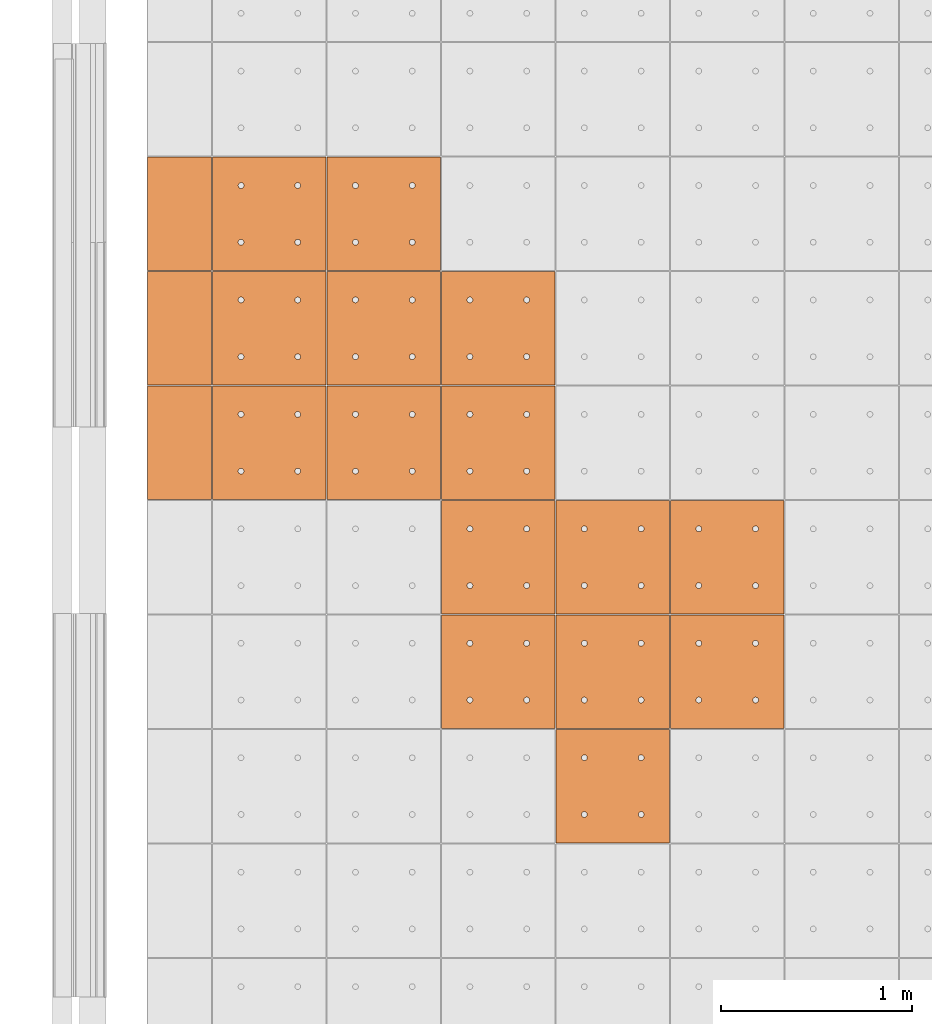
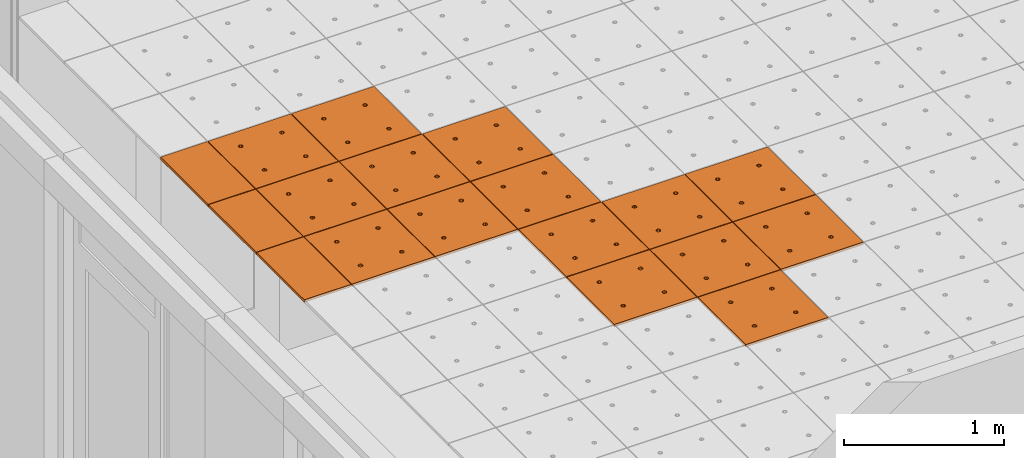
# One storey, part 236 of 338: 18 proxies, 1 element without a shape of its own.
"""IFC2X3 building model written with IfcOpenShell, lengths in millimetres."""

from ifc_helpers import new_model, entity, si_unit, converted_unit, derived_unit, money_unit, direction, frame, origin_with_axes, place, context, subcontext, project, spatial, faceted_brep, source, transform, mapped, material, type_object, type_shapes, element, aggregate, save


model = new_model("IFC2X3")

# Units and contexts
model_context = context("Model", 3, precision=0.01, world=origin_with_axes(), true_north=direction((0.0, 1.0)))
plan_context = context("Plan", 3, precision=0.01, world=origin_with_axes(), true_north=direction((0.0, 1.0)))
body_context = subcontext(model_context, "Body", "Model", "MODEL_VIEW")
ifc_project = project(units=[si_unit("LENGTHUNIT", "METRE", prefix="MILLI"), si_unit("AREAUNIT", "SQUARE_METRE"), si_unit("VOLUMEUNIT", "CUBIC_METRE"), converted_unit("PLANEANGLEUNIT", "DEGREE", entity("IfcPlaneAngleMeasure", 0.0174532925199), si_unit("PLANEANGLEUNIT", "RADIAN"), dimensions=[0, 0, 0, 0, 0, 0, 0]), money_unit("EUR"), converted_unit("TIMEUNIT", "Year", entity("IfcTimeMeasure", 31556926.0), si_unit("TIMEUNIT", "SECOND"), dimensions=[0, 0, 1, 0, 0, 0, 0]), si_unit("MASSUNIT", "GRAM", prefix="KILO"), si_unit("THERMODYNAMICTEMPERATUREUNIT", "DEGREE_CELSIUS"), si_unit("LUMINOUSINTENSITYUNIT", "LUMEN"), si_unit("ENERGYUNIT", "JOULE", prefix="MEGA"), derived_unit("THERMALCONDUCTANCEUNIT", [(si_unit("POWERUNIT", "WATT"), 1), (si_unit("LENGTHUNIT", "METRE"), -1), (si_unit("THERMODYNAMICTEMPERATUREUNIT", "KELVIN"), -1)]), derived_unit("SPECIFICHEATCAPACITYUNIT", [(si_unit("ENERGYUNIT", "JOULE"), 1), (si_unit("MASSUNIT", "GRAM", prefix="KILO"), -1), (si_unit("THERMODYNAMICTEMPERATUREUNIT", "KELVIN"), -1)]), derived_unit("MASSDENSITYUNIT", [(si_unit("MASSUNIT", "GRAM", prefix="KILO"), 1), (si_unit("VOLUMEUNIT", "CUBIC_METRE"), -1)])], contexts=[model_context, plan_context])

# Site, building, storey
site_placement = place(None, origin_with_axes())
site = spatial("IfcSite", under=ifc_project, at=site_placement, Name="Fortuinstraat Woensdrecht", CompositionType="ELEMENT")
building_placement = place(site_placement, origin_with_axes())
building = spatial("IfcBuilding", under=site, at=building_placement, Name="IKC Fortuna", CompositionType="ELEMENT")
storey_placement = place(building_placement, origin_with_axes())
storey = spatial("IfcBuildingStorey", under=building, at=storey_placement, Name="00 begane grond", CompositionType="ELEMENT", Elevation=0.0)

# Covering, proxies
covering_type = type_object("IfcCoveringType", Name="Curtain Wall Type", PredefinedType="CEILING")
covering_placement = place(storey_placement, frame((17451.9845996, 24118.5314449, 3210.0), z_axis=(0.0, 0.0, 1.0), x_axis=(1.0, 0.0, 0.0)))
covering = element("IfcCovering", 1, at=covering_placement, inside=storey, type_object=covering_type, Name="45_Plafondafwerking_P01", PredefinedType="CEILING")
ifc_material = material(Name="Gipsplaat")
building_element_proxy_type_1 = type_object("IfcBuildingElementProxyType", Name="Main Panel 600 x 600 x 20", PredefinedType="NOTDEFINED")
shared_shape_1 = source(origin_with_axes(), body_context, "Body", "Brep", [
    faceted_brep([(2.49999999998, 2.49999999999, -10.0), (300.0, 2.49999999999, -10.0), (300.0, 2.49999999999, 10.0), (2.49999999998, 2.49999999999, 10.0), (2.49999999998, 300.0, -10.0), (2.49999999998, 597.5, -10.0), (300.0, 597.5, -10.0), (597.5, 597.5, -10.0), (597.5, 300.0, -10.0), (597.5, 2.49999999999, -10.0), (166.25, 450.06232995, -10.0), (165.79423259, 452.64711538, -10.0), (164.896546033, 455.11348892, -10.0), (163.58421608, 457.38651108, -10.0), (161.897117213, 459.39711721, -10.0), (159.886511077, 461.08421608, -10.0), (157.613488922, 462.39654603, -10.0), (155.147115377, 463.29423259, -10.0), (152.562329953, 463.75, -10.0), (149.937670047, 463.75, -10.0), (147.352884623, 463.29423259, -10.0), (144.886511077, 462.39654603, -10.0), (142.613488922, 461.08421608, -10.0), (140.602882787, 459.39711721, -10.0), (138.91578392, 457.38651108, -10.0), (137.603453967, 455.11348892, -10.0), (136.705767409, 452.64711538, -10.0), (136.25, 450.06232995, -10.0), (136.25, 448.75, -10.0), (136.25, 447.43767005, -10.0), (136.705767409, 444.85288462, -10.0), (137.603453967, 442.38651108, -10.0), (138.91578392, 440.11348892, -10.0), (140.602882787, 438.10288279, -10.0), (142.613488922, 436.41578392, -10.0), (144.886511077, 435.10345397, -10.0), (147.352884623, 434.20576741, -10.0), (149.937670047, 433.75, -10.0), (152.562329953, 433.75, -10.0), (155.147115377, 434.20576741, -10.0), (157.613488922, 435.10345397, -10.0), (159.886511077, 436.41578392, -10.0), (161.897117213, 438.10288279, -10.0), (163.58421608, 440.11348892, -10.0), (164.896546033, 442.38651108, -10.0), (165.79423259, 444.85288462, -10.0), (166.25, 447.43767005, -10.0), (463.75, 450.06232995, -10.0), (463.29423259, 452.64711538, -10.0), (462.396546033, 455.11348892, -10.0), (461.08421608, 457.38651108, -10.0), (459.397117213, 459.39711721, -10.0), (457.386511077, 461.08421608, -10.0), (455.113488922, 462.39654603, -10.0), (452.647115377, 463.29423259, -10.0), (450.062329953, 463.75, -10.0), (447.437670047, 463.75, -10.0), (444.852884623, 463.29423259, -10.0), (442.386511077, 462.39654603, -10.0), (440.113488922, 461.08421608, -10.0), (438.102882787, 459.39711721, -10.0), (436.41578392, 457.38651108, -10.0), (435.103453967, 455.11348892, -10.0), (434.205767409, 452.64711538, -10.0), (433.75, 450.06232995, -10.0), (433.75, 448.75, -10.0), (433.75, 447.43767005, -10.0), (434.205767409, 444.85288462, -10.0), (435.103453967, 442.38651108, -10.0), (436.41578392, 440.11348892, -10.0), (438.102882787, 438.10288279, -10.0), (440.113488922, 436.41578392, -10.0), (442.386511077, 435.10345397, -10.0), (444.852884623, 434.20576741, -10.0), (447.437670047, 433.75, -10.0), (450.062329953, 433.75, -10.0), (452.647115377, 434.20576741, -10.0), (455.113488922, 435.10345397, -10.0), (457.386511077, 436.41578392, -10.0), (459.397117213, 438.10288279, -10.0), (461.08421608, 440.11348892, -10.0), (462.396546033, 442.38651108, -10.0), (463.29423259, 444.85288462, -10.0), (463.75, 447.43767005, -10.0), (463.75, 152.56232995, -10.0), (463.29423259, 155.14711538, -10.0), (462.396546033, 157.61348892, -10.0), (461.08421608, 159.88651108, -10.0), (459.397117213, 161.89711721, -10.0), (457.386511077, 163.58421608, -10.0), (455.113488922, 164.89654603, -10.0), (452.647115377, 165.79423259, -10.0), (450.062329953, 166.25, -10.0), (447.437670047, 166.25, -10.0), (444.852884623, 165.79423259, -10.0), (442.386511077, 164.89654603, -10.0), (440.113488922, 163.58421608, -10.0), (438.102882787, 161.89711721, -10.0), (436.41578392, 159.88651108, -10.0), (435.103453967, 157.61348892, -10.0), (434.205767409, 155.14711538, -10.0), (433.75, 152.56232995, -10.0), (433.75, 151.25, -10.0), (433.75, 149.93767005, -10.0), (434.205767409, 147.35288462, -10.0), (435.103453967, 144.88651108, -10.0), (436.41578392, 142.61348892, -10.0), (438.102882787, 140.60288279, -10.0), (440.113488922, 138.91578392, -10.0), (442.386511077, 137.60345397, -10.0), (444.852884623, 136.70576741, -10.0), (447.437670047, 136.25, -10.0), (450.062329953, 136.25, -10.0), (452.647115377, 136.70576741, -10.0), (455.113488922, 137.60345397, -10.0), (457.386511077, 138.91578392, -10.0), (459.397117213, 140.60288279, -10.0), (461.08421608, 142.61348892, -10.0), (462.396546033, 144.88651108, -10.0), (463.29423259, 147.35288462, -10.0), (463.75, 149.93767005, -10.0), (166.25, 152.56232995, -10.0), (165.79423259, 155.14711538, -10.0), (164.896546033, 157.61348892, -10.0), (163.58421608, 159.88651108, -10.0), (161.897117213, 161.89711721, -10.0), (159.886511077, 163.58421608, -10.0), (157.613488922, 164.89654603, -10.0), (155.147115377, 165.79423259, -10.0), (152.562329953, 166.25, -10.0), (149.937670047, 166.25, -10.0), (147.352884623, 165.79423259, -10.0), (144.886511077, 164.89654603, -10.0), (142.613488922, 163.58421608, -10.0), (140.602882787, 161.89711721, -10.0), (138.91578392, 159.88651108, -10.0), (137.603453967, 157.61348892, -10.0), (136.705767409, 155.14711538, -10.0), (136.25, 152.56232995, -10.0), (136.25, 151.25, -10.0), (136.25, 149.93767005, -10.0), (136.705767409, 147.35288462, -10.0), (137.603453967, 144.88651108, -10.0), (138.91578392, 142.61348892, -10.0), (140.602882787, 140.60288279, -10.0), (142.613488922, 138.91578392, -10.0), (144.886511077, 137.60345397, -10.0), (147.352884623, 136.70576741, -10.0), (149.937670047, 136.25, -10.0), (152.562329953, 136.25, -10.0), (155.147115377, 136.70576741, -10.0), (157.613488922, 137.60345397, -10.0), (159.886511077, 138.91578392, -10.0), (161.897117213, 140.60288279, -10.0), (163.58421608, 142.61348892, -10.0), (164.896546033, 144.88651108, -10.0), (165.79423259, 147.35288462, -10.0), (166.25, 149.93767005, -10.0), (597.5, 2.49999999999, 10.0), (597.5, 300.0, 10.0), (597.5, 597.5, 10.0), (300.0, 597.5, 10.0), (2.49999999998, 597.5, 10.0), (2.49999999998, 300.0, 10.0), (166.25, 450.06232995, 10.0), (166.25, 447.43767005, 10.0), (165.79423259, 444.85288462, 10.0), (164.896546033, 442.38651108, 10.0), (163.58421608, 440.11348892, 10.0), (161.897117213, 438.10288279, 10.0), (159.886511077, 436.41578392, 10.0), (157.613488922, 435.10345397, 10.0), (155.147115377, 434.20576741, 10.0), (152.562329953, 433.75, 10.0), (149.937670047, 433.75, 10.0), (147.352884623, 434.20576741, 10.0), (144.886511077, 435.10345397, 10.0), (142.613488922, 436.41578392, 10.0), (140.602882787, 438.10288279, 10.0), (138.91578392, 440.11348892, 10.0), (137.603453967, 442.38651108, 10.0), (136.705767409, 444.85288462, 10.0), (136.25, 447.43767005, 10.0), (136.25, 448.75, 10.0), (136.25, 450.06232995, 10.0), (136.705767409, 452.64711538, 10.0), (137.603453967, 455.11348892, 10.0), (138.91578392, 457.38651108, 10.0), (140.602882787, 459.39711721, 10.0), (142.613488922, 461.08421608, 10.0), (144.886511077, 462.39654603, 10.0), (147.352884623, 463.29423259, 10.0), (149.937670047, 463.75, 10.0), (152.562329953, 463.75, 10.0), (155.147115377, 463.29423259, 10.0), (157.613488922, 462.39654603, 10.0), (159.886511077, 461.08421608, 10.0), (161.897117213, 459.39711721, 10.0), (163.58421608, 457.38651108, 10.0), (164.896546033, 455.11348892, 10.0), (165.79423259, 452.64711538, 10.0), (463.75, 450.06232995, 10.0), (463.75, 447.43767005, 10.0), (463.29423259, 444.85288462, 10.0), (462.396546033, 442.38651108, 10.0), (461.08421608, 440.11348892, 10.0), (459.397117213, 438.10288279, 10.0), (457.386511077, 436.41578392, 10.0), (455.113488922, 435.10345397, 10.0), (452.647115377, 434.20576741, 10.0), (450.062329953, 433.75, 10.0), (447.437670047, 433.75, 10.0), (444.852884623, 434.20576741, 10.0), (442.386511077, 435.10345397, 10.0), (440.113488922, 436.41578392, 10.0), (438.102882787, 438.10288279, 10.0), (436.41578392, 440.11348892, 10.0), (435.103453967, 442.38651108, 10.0), (434.205767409, 444.85288462, 10.0), (433.75, 447.43767005, 10.0), (433.75, 448.75, 10.0), (433.75, 450.06232995, 10.0), (434.205767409, 452.64711538, 10.0), (435.103453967, 455.11348892, 10.0), (436.41578392, 457.38651108, 10.0), (438.102882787, 459.39711721, 10.0), (440.113488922, 461.08421608, 10.0), (442.386511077, 462.39654603, 10.0), (444.852884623, 463.29423259, 10.0), (447.437670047, 463.75, 10.0), (450.062329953, 463.75, 10.0), (452.647115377, 463.29423259, 10.0), (455.113488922, 462.39654603, 10.0), (457.386511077, 461.08421608, 10.0), (459.397117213, 459.39711721, 10.0), (461.08421608, 457.38651108, 10.0), (462.396546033, 455.11348892, 10.0), (463.29423259, 452.64711538, 10.0), (463.75, 152.56232995, 10.0), (463.75, 149.93767005, 10.0), (463.29423259, 147.35288462, 10.0), (462.396546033, 144.88651108, 10.0), (461.08421608, 142.61348892, 10.0), (459.397117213, 140.60288279, 10.0), (457.386511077, 138.91578392, 10.0), (455.113488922, 137.60345397, 10.0), (452.647115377, 136.70576741, 10.0), (450.062329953, 136.25, 10.0), (447.437670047, 136.25, 10.0), (444.852884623, 136.70576741, 10.0), (442.386511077, 137.60345397, 10.0), (440.113488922, 138.91578392, 10.0), (438.102882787, 140.60288279, 10.0), (436.41578392, 142.61348892, 10.0), (435.103453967, 144.88651108, 10.0), (434.205767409, 147.35288462, 10.0), (433.75, 149.93767005, 10.0), (433.75, 151.25, 10.0), (433.75, 152.56232995, 10.0), (434.205767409, 155.14711538, 10.0), (435.103453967, 157.61348892, 10.0), (436.41578392, 159.88651108, 10.0), (438.102882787, 161.89711721, 10.0), (440.113488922, 163.58421608, 10.0), (442.386511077, 164.89654603, 10.0), (444.852884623, 165.79423259, 10.0), (447.437670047, 166.25, 10.0), (450.062329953, 166.25, 10.0), (452.647115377, 165.79423259, 10.0), (455.113488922, 164.89654603, 10.0), (457.386511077, 163.58421608, 10.0), (459.397117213, 161.89711721, 10.0), (461.08421608, 159.88651108, 10.0), (462.396546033, 157.61348892, 10.0), (463.29423259, 155.14711538, 10.0), (166.25, 152.56232995, 10.0), (166.25, 149.93767005, 10.0), (165.79423259, 147.35288462, 10.0), (164.896546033, 144.88651108, 10.0), (163.58421608, 142.61348892, 10.0), (161.897117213, 140.60288279, 10.0), (159.886511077, 138.91578392, 10.0), (157.613488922, 137.60345397, 10.0), (155.147115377, 136.70576741, 10.0), (152.562329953, 136.25, 10.0), (149.937670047, 136.25, 10.0), (147.352884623, 136.70576741, 10.0), (144.886511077, 137.60345397, 10.0), (142.613488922, 138.91578392, 10.0), (140.602882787, 140.60288279, 10.0), (138.91578392, 142.61348892, 10.0), (137.603453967, 144.88651108, 10.0), (136.705767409, 147.35288462, 10.0), (136.25, 149.93767005, 10.0), (136.25, 151.25, 10.0), (136.25, 152.56232995, 10.0), (136.705767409, 155.14711538, 10.0), (137.603453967, 157.61348892, 10.0), (138.91578392, 159.88651108, 10.0), (140.602882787, 161.89711721, 10.0), (142.613488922, 163.58421608, 10.0), (144.886511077, 164.89654603, 10.0), (147.352884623, 165.79423259, 10.0), (149.937670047, 166.25, 10.0), (152.562329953, 166.25, 10.0), (155.147115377, 165.79423259, 10.0), (157.613488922, 164.89654603, 10.0), (159.886511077, 163.58421608, 10.0), (161.897117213, 161.89711721, 10.0), (163.58421608, 159.88651108, 10.0), (164.896546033, 157.61348892, 10.0), (165.79423259, 155.14711538, 10.0)], [[[0, 1, 2, 3]], [[0, 4, 5, 6, 7, 8, 9, 1], [10, 11, 12, 13, 14, 15, 16, 17, 18, 19, 20, 21, 22, 23, 24, 25, 26, 27, 28, 29, 30, 31, 32, 33, 34, 35, 36, 37, 38, 39, 40, 41, 42, 43, 44, 45, 46], [47, 48, 49, 50, 51, 52, 53, 54, 55, 56, 57, 58, 59, 60, 61, 62, 63, 64, 65, 66, 67, 68, 69, 70, 71, 72, 73, 74, 75, 76, 77, 78, 79, 80, 81, 82, 83], [84, 85, 86, 87, 88, 89, 90, 91, 92, 93, 94, 95, 96, 97, 98, 99, 100, 101, 102, 103, 104, 105, 106, 107, 108, 109, 110, 111, 112, 113, 114, 115, 116, 117, 118, 119, 120], [121, 122, 123, 124, 125, 126, 127, 128, 129, 130, 131, 132, 133, 134, 135, 136, 137, 138, 139, 140, 141, 142, 143, 144, 145, 146, 147, 148, 149, 150, 151, 152, 153, 154, 155, 156, 157]], [[1, 9, 158, 2]], [[3, 2, 158, 159, 160, 161, 162, 163], [164, 165, 166, 167, 168, 169, 170, 171, 172, 173, 174, 175, 176, 177, 178, 179, 180, 181, 182, 183, 184, 185, 186, 187, 188, 189, 190, 191, 192, 193, 194, 195, 196, 197, 198, 199, 200], [201, 202, 203, 204, 205, 206, 207, 208, 209, 210, 211, 212, 213, 214, 215, 216, 217, 218, 219, 220, 221, 222, 223, 224, 225, 226, 227, 228, 229, 230, 231, 232, 233, 234, 235, 236, 237], [238, 239, 240, 241, 242, 243, 244, 245, 246, 247, 248, 249, 250, 251, 252, 253, 254, 255, 256, 257, 258, 259, 260, 261, 262, 263, 264, 265, 266, 267, 268, 269, 270, 271, 272, 273, 274], [275, 276, 277, 278, 279, 280, 281, 282, 283, 284, 285, 286, 287, 288, 289, 290, 291, 292, 293, 294, 295, 296, 297, 298, 299, 300, 301, 302, 303, 304, 305, 306, 307, 308, 309, 310, 311]], [[4, 0, 3, 163]], [[5, 4, 163, 162]], [[6, 5, 162, 161]], [[7, 6, 161, 160]], [[8, 7, 160, 159]], [[9, 8, 159, 158]], [[11, 10, 164, 200]], [[12, 11, 200, 199]], [[13, 12, 199, 198]], [[14, 13, 198, 197]], [[15, 14, 197, 196]], [[16, 15, 196, 195]], [[17, 16, 195, 194]], [[18, 17, 194, 193]], [[19, 18, 193, 192]], [[20, 19, 192, 191]], [[21, 20, 191, 190]], [[22, 21, 190, 189]], [[23, 22, 189, 188]], [[24, 23, 188, 187]], [[25, 24, 187, 186]], [[26, 25, 186, 185]], [[27, 26, 185, 184]], [[28, 27, 184, 183]], [[29, 28, 183, 182]], [[30, 29, 182, 181]], [[31, 30, 181, 180]], [[32, 31, 180, 179]], [[33, 32, 179, 178]], [[34, 33, 178, 177]], [[35, 34, 177, 176]], [[36, 35, 176, 175]], [[37, 36, 175, 174]], [[38, 37, 174, 173]], [[39, 38, 173, 172]], [[40, 39, 172, 171]], [[41, 40, 171, 170]], [[42, 41, 170, 169]], [[43, 42, 169, 168]], [[44, 43, 168, 167]], [[45, 44, 167, 166]], [[46, 45, 166, 165]], [[10, 46, 165, 164]], [[48, 47, 201, 237]], [[49, 48, 237, 236]], [[50, 49, 236, 235]], [[51, 50, 235, 234]], [[52, 51, 234, 233]], [[53, 52, 233, 232]], [[54, 53, 232, 231]], [[55, 54, 231, 230]], [[56, 55, 230, 229]], [[57, 56, 229, 228]], [[58, 57, 228, 227]], [[59, 58, 227, 226]], [[60, 59, 226, 225]], [[61, 60, 225, 224]], [[62, 61, 224, 223]], [[63, 62, 223, 222]], [[64, 63, 222, 221]], [[65, 64, 221, 220]], [[66, 65, 220, 219]], [[67, 66, 219, 218]], [[68, 67, 218, 217]], [[69, 68, 217, 216]], [[70, 69, 216, 215]], [[71, 70, 215, 214]], [[72, 71, 214, 213]], [[73, 72, 213, 212]], [[74, 73, 212, 211]], [[75, 74, 211, 210]], [[76, 75, 210, 209]], [[77, 76, 209, 208]], [[78, 77, 208, 207]], [[79, 78, 207, 206]], [[80, 79, 206, 205]], [[81, 80, 205, 204]], [[82, 81, 204, 203]], [[83, 82, 203, 202]], [[47, 83, 202, 201]], [[85, 84, 238, 274]], [[86, 85, 274, 273]], [[87, 86, 273, 272]], [[88, 87, 272, 271]], [[89, 88, 271, 270]], [[90, 89, 270, 269]], [[91, 90, 269, 268]], [[92, 91, 268, 267]], [[93, 92, 267, 266]], [[94, 93, 266, 265]], [[95, 94, 265, 264]], [[96, 95, 264, 263]], [[97, 96, 263, 262]], [[98, 97, 262, 261]], [[99, 98, 261, 260]], [[100, 99, 260, 259]], [[101, 100, 259, 258]], [[102, 101, 258, 257]], [[103, 102, 257, 256]], [[104, 103, 256, 255]], [[105, 104, 255, 254]], [[106, 105, 254, 253]], [[107, 106, 253, 252]], [[108, 107, 252, 251]], [[109, 108, 251, 250]], [[110, 109, 250, 249]], [[111, 110, 249, 248]], [[112, 111, 248, 247]], [[113, 112, 247, 246]], [[114, 113, 246, 245]], [[115, 114, 245, 244]], [[116, 115, 244, 243]], [[117, 116, 243, 242]], [[118, 117, 242, 241]], [[119, 118, 241, 240]], [[120, 119, 240, 239]], [[84, 120, 239, 238]], [[122, 121, 275, 311]], [[123, 122, 311, 310]], [[124, 123, 310, 309]], [[125, 124, 309, 308]], [[126, 125, 308, 307]], [[127, 126, 307, 306]], [[128, 127, 306, 305]], [[129, 128, 305, 304]], [[130, 129, 304, 303]], [[131, 130, 303, 302]], [[132, 131, 302, 301]], [[133, 132, 301, 300]], [[134, 133, 300, 299]], [[135, 134, 299, 298]], [[136, 135, 298, 297]], [[137, 136, 297, 296]], [[138, 137, 296, 295]], [[139, 138, 295, 294]], [[140, 139, 294, 293]], [[141, 140, 293, 292]], [[142, 141, 292, 291]], [[143, 142, 291, 290]], [[144, 143, 290, 289]], [[145, 144, 289, 288]], [[146, 145, 288, 287]], [[147, 146, 287, 286]], [[148, 147, 286, 285]], [[149, 148, 285, 284]], [[150, 149, 284, 283]], [[151, 150, 283, 282]], [[152, 151, 282, 281]], [[153, 152, 281, 280]], [[154, 153, 280, 279]], [[155, 154, 279, 278]], [[156, 155, 278, 277]], [[157, 156, 277, 276]], [[121, 157, 276, 275]]]),
])
type_shapes(building_element_proxy_type_1, [shared_shape_1])
proxy_1_placement = place(covering_placement, frame((-1200.0, -6000.0, 1.37223565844e-10), z_axis=(0.0, 0.0, 1.0), x_axis=(1.0, 0.0, 0.0)))
proxy_1 = element("IfcBuildingElementProxy", 2, at=proxy_1_placement, type_object=building_element_proxy_type_1, material=ifc_material, Name="__600x644 Rockfon Krios", context=body_context, shape_type="MappedRepresentation", body=[
    mapped(shared_shape_1, transform((300.0, 300.0, 0.0), x_axis=(-1.0, 0.0, 0.0), y_axis=(0.0, -1.0, 0.0), z_axis=(0.0, 0.0, 1.0))),
])
proxy_2_placement = place(covering_placement, frame((-600.0, -4800.0, 1.1768364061e-10), z_axis=(0.0, 0.0, 1.0), x_axis=(1.0, 0.0, 0.0)))
proxy_2 = element("IfcBuildingElementProxy", 3, at=proxy_2_placement, type_object=building_element_proxy_type_1, material=ifc_material, Name="__600x654 Rockfon Krios", context=body_context, shape_type="MappedRepresentation", body=[
    mapped(shared_shape_1, transform((300.0, 300.0, 0.0), x_axis=(-1.0, 0.0, 0.0), y_axis=(0.0, -1.0, 0.0), z_axis=(0.0, 0.0, 1.0))),
])
proxy_3_placement = place(covering_placement, frame((-600.0, -5400.0, 1.1768364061e-10), z_axis=(0.0, 0.0, 1.0), x_axis=(1.0, 0.0, 0.0)))
proxy_3 = element("IfcBuildingElementProxy", 4, at=proxy_3_placement, type_object=building_element_proxy_type_1, material=ifc_material, Name="__600x655 Rockfon Krios", context=body_context, shape_type="MappedRepresentation", body=[
    mapped(shared_shape_1, transform((300.0, 300.0, 0.0), x_axis=(-1.0, 0.0, 0.0), y_axis=(0.0, -1.0, 0.0), z_axis=(0.0, 0.0, 1.0))),
])
proxy_4_placement = place(covering_placement, frame((-3000.0, -3000.0, 1.96287430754e-10), z_axis=(0.0, 0.0, 1.0), x_axis=(1.0, 0.0, 0.0)))
proxy_4 = element("IfcBuildingElementProxy", 5, at=proxy_4_placement, type_object=building_element_proxy_type_1, material=ifc_material, Name="__600x729 Rockfon Krios", context=body_context, shape_type="MappedRepresentation", body=[
    mapped(shared_shape_1, transform((300.0, 300.0, 0.0), x_axis=(-1.0, 0.0, 0.0), y_axis=(0.0, -1.0, 0.0), z_axis=(0.0, 0.0, 1.0))),
])
proxy_5_placement = place(covering_placement, frame((-3000.0, -3600.0, 1.96287430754e-10), z_axis=(0.0, 0.0, 1.0), x_axis=(1.0, 0.0, 0.0)))
proxy_5 = element("IfcBuildingElementProxy", 6, at=proxy_5_placement, type_object=building_element_proxy_type_1, material=ifc_material, Name="__600x730 Rockfon Krios", context=body_context, shape_type="MappedRepresentation", body=[
    mapped(shared_shape_1, transform((300.0, 300.0, 0.0), x_axis=(-1.0, 0.0, 0.0), y_axis=(0.0, -1.0, 0.0), z_axis=(0.0, 0.0, 1.0))),
])
proxy_6_placement = place(covering_placement, frame((-3000.0, -4200.0, 1.96287430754e-10), z_axis=(0.0, 0.0, 1.0), x_axis=(1.0, 0.0, 0.0)))
proxy_6 = element("IfcBuildingElementProxy", 7, at=proxy_6_placement, type_object=building_element_proxy_type_1, material=ifc_material, Name="__600x731 Rockfon Krios", context=body_context, shape_type="MappedRepresentation", body=[
    mapped(shared_shape_1, transform((300.0, 300.0, 0.0), x_axis=(-1.0, 0.0, 0.0), y_axis=(0.0, -1.0, 0.0), z_axis=(0.0, 0.0, 1.0))),
])
proxy_7_placement = place(covering_placement, frame((-1800.0, -4200.0, 1.56763491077e-10), z_axis=(0.0, 0.0, 1.0), x_axis=(1.0, 0.0, 0.0)))
proxy_7 = element("IfcBuildingElementProxy", 8, at=proxy_7_placement, type_object=building_element_proxy_type_1, material=ifc_material, Name="__600x740 Rockfon Krios", context=body_context, shape_type="MappedRepresentation", body=[
    mapped(shared_shape_1, transform((300.0, 300.0, 0.0), x_axis=(-1.0, 0.0, 0.0), y_axis=(0.0, -1.0, 0.0), z_axis=(0.0, 0.0, 1.0))),
])
proxy_8_placement = place(covering_placement, frame((-1800.0, -3600.0, 1.56763491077e-10), z_axis=(0.0, 0.0, 1.0), x_axis=(1.0, 0.0, 0.0)))
proxy_8 = element("IfcBuildingElementProxy", 9, at=proxy_8_placement, type_object=building_element_proxy_type_1, material=ifc_material, Name="__600x741 Rockfon Krios", context=body_context, shape_type="MappedRepresentation", body=[
    mapped(shared_shape_1, transform((300.0, 300.0, 0.0), x_axis=(-1.0, 0.0, 0.0), y_axis=(0.0, -1.0, 0.0), z_axis=(0.0, 0.0, 1.0))),
])
proxy_9_placement = place(covering_placement, frame((-1800.0, -5400.0, 1.56763491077e-10), z_axis=(0.0, 0.0, 1.0), x_axis=(1.0, 0.0, 0.0)))
proxy_9 = element("IfcBuildingElementProxy", 10, at=proxy_9_placement, type_object=building_element_proxy_type_1, material=ifc_material, Name="__600x743 Rockfon Krios", context=body_context, shape_type="MappedRepresentation", body=[
    mapped(shared_shape_1, transform((300.0, 300.0, 0.0), x_axis=(-1.0, 0.0, 0.0), y_axis=(0.0, -1.0, 0.0), z_axis=(0.0, 0.0, 1.0))),
])
proxy_10_placement = place(covering_placement, frame((-2400.0, -3600.0, 1.7630341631e-10), z_axis=(0.0, 0.0, 1.0), x_axis=(1.0, 0.0, 0.0)))
proxy_10 = element("IfcBuildingElementProxy", 11, at=proxy_10_placement, type_object=building_element_proxy_type_1, material=ifc_material, Name="__600x749 Rockfon Krios", context=body_context, shape_type="MappedRepresentation", body=[
    mapped(shared_shape_1, transform((300.0, 300.0, 0.0), x_axis=(-1.0, 0.0, 0.0), y_axis=(0.0, -1.0, 0.0), z_axis=(0.0, 0.0, 1.0))),
])
proxy_11_placement = place(covering_placement, frame((-2400.0, -3000.0, 1.7630341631e-10), z_axis=(0.0, 0.0, 1.0), x_axis=(1.0, 0.0, 0.0)))
proxy_11 = element("IfcBuildingElementProxy", 12, at=proxy_11_placement, type_object=building_element_proxy_type_1, material=ifc_material, Name="__600x757 Rockfon Krios", context=body_context, shape_type="MappedRepresentation", body=[
    mapped(shared_shape_1, transform((300.0, 300.0, 0.0), x_axis=(-1.0, 0.0, 0.0), y_axis=(0.0, -1.0, 0.0), z_axis=(0.0, 0.0, 1.0))),
])
proxy_12_placement = place(covering_placement, frame((-2400.0, -4200.0, 1.7630341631e-10), z_axis=(0.0, 0.0, 1.0), x_axis=(1.0, 0.0, 0.0)))
proxy_12 = element("IfcBuildingElementProxy", 13, at=proxy_12_placement, type_object=building_element_proxy_type_1, material=ifc_material, Name="__600x758 Rockfon Krios", context=body_context, shape_type="MappedRepresentation", body=[
    mapped(shared_shape_1, transform((300.0, 300.0, 0.0), x_axis=(-1.0, 0.0, 0.0), y_axis=(0.0, -1.0, 0.0), z_axis=(0.0, 0.0, 1.0))),
])
proxy_13_placement = place(covering_placement, frame((-1800.0, -4800.0, 1.56763491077e-10), z_axis=(0.0, 0.0, 1.0), x_axis=(1.0, 0.0, 0.0)))
proxy_13 = element("IfcBuildingElementProxy", 14, at=proxy_13_placement, type_object=building_element_proxy_type_1, material=ifc_material, Name="__600x770 Rockfon Krios", context=body_context, shape_type="MappedRepresentation", body=[
    mapped(shared_shape_1, transform((300.0, 300.0, 0.0), x_axis=(-1.0, 0.0, 0.0), y_axis=(0.0, -1.0, 0.0), z_axis=(0.0, 0.0, 1.0))),
])
proxy_14_placement = place(covering_placement, frame((-1200.0, -4800.0, 1.37223565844e-10), z_axis=(0.0, 0.0, 1.0), x_axis=(1.0, 0.0, 0.0)))
proxy_14 = element("IfcBuildingElementProxy", 15, at=proxy_14_placement, type_object=building_element_proxy_type_1, material=ifc_material, Name="__600x784 Rockfon Krios", context=body_context, shape_type="MappedRepresentation", body=[
    mapped(shared_shape_1, transform((300.0, 300.0, 0.0), x_axis=(-1.0, 0.0, 0.0), y_axis=(0.0, -1.0, 0.0), z_axis=(0.0, 0.0, 1.0))),
])
proxy_15_placement = place(covering_placement, frame((-1200.0, -5400.0, 1.37223565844e-10), z_axis=(0.0, 0.0, 1.0), x_axis=(1.0, 0.0, 0.0)))
proxy_15 = element("IfcBuildingElementProxy", 16, at=proxy_15_placement, type_object=building_element_proxy_type_1, material=ifc_material, Name="__600x785 Rockfon Krios", context=body_context, shape_type="MappedRepresentation", body=[
    mapped(shared_shape_1, transform((300.0, 300.0, 0.0), x_axis=(-1.0, 0.0, 0.0), y_axis=(0.0, -1.0, 0.0), z_axis=(0.0, 0.0, 1.0))),
])
building_element_proxy_type_2 = type_object("IfcBuildingElementProxyType", Name="343 x 600 x 20", PredefinedType="NOTDEFINED")
shared_shape_2 = source(origin_with_axes(), body_context, "Body", "Brep", [
    faceted_brep([(2.49999910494, 2.5, -10.0), (340.049548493, 2.49999999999, -10.0), (340.049548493, 2.49999999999, 10.0), (2.49999910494, 2.5, 10.0), (2.49999910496, 597.5, -10.0), (340.049548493, 597.5, -10.0), (340.049548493, 597.5, 10.0), (2.49999910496, 597.5, 10.0)], [[[0, 1, 2, 3]], [[0, 4, 5, 1]], [[1, 5, 6, 2]], [[3, 2, 6, 7]], [[4, 0, 3, 7]], [[5, 4, 7, 6]]]),
])
type_shapes(building_element_proxy_type_2, [shared_shape_2])
proxy_16_placement = place(covering_placement, frame((-3471.27477425, -4200.0, 2.11830553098e-10), z_axis=(0.0, 0.0, 1.0), x_axis=(1.0, 0.0, 0.0)))
proxy_16 = element("IfcBuildingElementProxy", 17, at=proxy_16_placement, type_object=building_element_proxy_type_2, material=ifc_material, Name="__600x620 Rockfon Krios", context=body_context, shape_type="MappedRepresentation", body=[
    mapped(shared_shape_2, transform((171.274774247, 300.0, 0.0), x_axis=(-1.0, 0.0, 0.0), y_axis=(0.0, -1.0, 0.0), z_axis=(0.0, 0.0, 1.0))),
])
proxy_17_placement = place(covering_placement, frame((-3471.27477425, -3600.0, 2.11830553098e-10), z_axis=(0.0, 0.0, 1.0), x_axis=(1.0, 0.0, 0.0)))
proxy_17 = element("IfcBuildingElementProxy", 18, at=proxy_17_placement, type_object=building_element_proxy_type_2, material=ifc_material, Name="__600x744 Rockfon Krios", context=body_context, shape_type="MappedRepresentation", body=[
    mapped(shared_shape_2, transform((171.274774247, 300.0, 0.0), x_axis=(-1.0, 0.0, 0.0), y_axis=(0.0, -1.0, 0.0), z_axis=(0.0, 0.0, 1.0))),
])
proxy_18_placement = place(covering_placement, frame((-3471.27477425, -3000.0, 2.11830553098e-10), z_axis=(0.0, 0.0, 1.0), x_axis=(1.0, 0.0, 0.0)))
proxy_18 = element("IfcBuildingElementProxy", 19, at=proxy_18_placement, type_object=building_element_proxy_type_2, material=ifc_material, Name="__600x768 Rockfon Krios", context=body_context, shape_type="MappedRepresentation", body=[
    mapped(shared_shape_2, transform((171.274774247, 300.0, 0.0), x_axis=(-1.0, 0.0, 0.0), y_axis=(0.0, -1.0, 0.0), z_axis=(0.0, 0.0, 1.0))),
])
aggregate(covering, [proxy_16, proxy_1, proxy_2, proxy_3, proxy_4, proxy_5, proxy_6, proxy_7, proxy_8, proxy_9, proxy_17, proxy_10, proxy_11, proxy_12, proxy_18, proxy_13, proxy_14, proxy_15])

save(model, "model.ifc")
